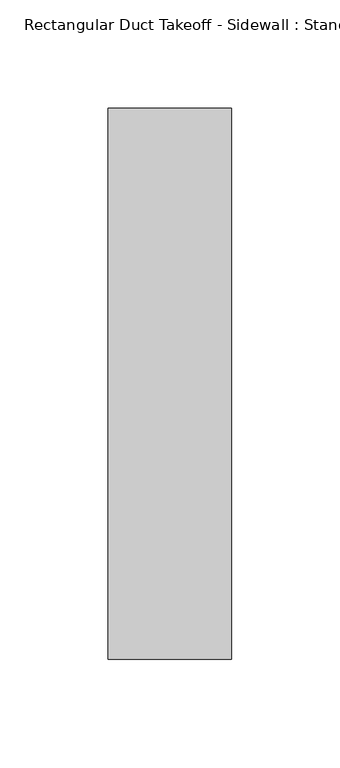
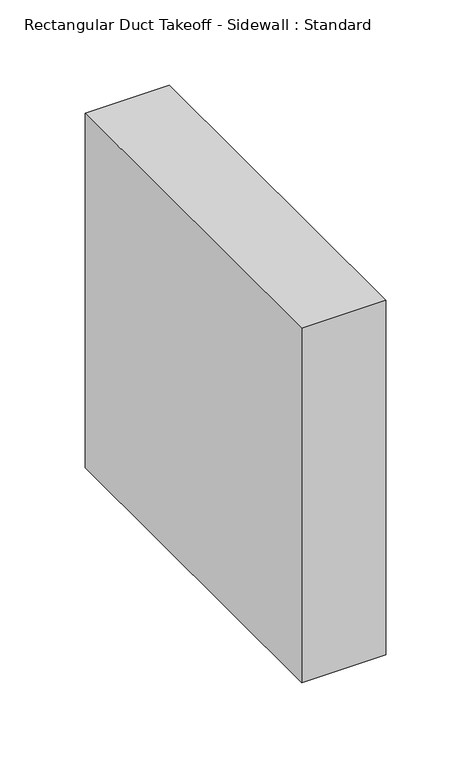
"""IFC4 building model written with IfcOpenShell, lengths in millimetres: duct fitting geometry, Rectangular Duct Takeoff - Sidewall : Standard."""

from ifc_helpers import new_model, si_unit, frame, origin, place, context, project, spatial, polyline, outline, extrude, source, transform, mapped, element, save


def rectangular_duct_takeoff_sidewall_standard_8ecd27dc(model_context):
    return source(origin(), model_context, "Body", "SweptSolid", [
        extrude(outline(polyline([(-6.096, -127.0), (-6.096, 127.0), (50.8, 127.0), (50.8, -127.0), (-6.096, -127.0)])), frame((0.0, 0.0, -127.0), z_axis=(0.0, 0.0, 1.0), x_axis=(1.0, 0.0, 0.0)), (0.0, 0.0, 1.0), 254.0),
        extrude(outline(polyline([(-6.096, -127.0), (-6.096, 127.0), (50.8, 127.0), (50.8, -127.0), (-6.096, -127.0)])), frame((0.0, 0.0, -127.0), z_axis=(0.0, 0.0, 1.0), x_axis=(1.0, 0.0, 0.0)), (0.0, 0.0, 1.0), 254.0),
        extrude(outline(polyline([(-6.096, -127.0), (-6.096, 127.0), (50.8, 127.0), (50.8, -127.0), (-6.096, -127.0)])), frame((0.0, 0.0, -127.0), z_axis=(0.0, 0.0, 1.0), x_axis=(1.0, 0.0, 0.0)), (0.0, 0.0, 1.0), 254.0),
    ])


if __name__ == "__main__":
    model = new_model("IFC4")
    model_context = context("Model", 3, world=origin())
    ifc_project = project(units=[si_unit("LENGTHUNIT", "METRE", prefix="MILLI")], contexts=[model_context])
    site = spatial("IfcSite", under=ifc_project)
    building = spatial("IfcBuilding", under=site)
    placement = place(None, origin())
    rectangular_duct_takeoff_sidewall_standard_shape = rectangular_duct_takeoff_sidewall_standard_8ecd27dc(model_context)
    element("IfcDuctFitting", 1, ObjectType="Rectangular Duct Takeoff - Sidewall : Standard", at=placement, inside=building, context=model_context, shape_type="MappedRepresentation", body=[
        mapped(rectangular_duct_takeoff_sidewall_standard_shape, transform((0.0, 0.0, 0.0), x_axis=(1.0, 0.0, 0.0), y_axis=(0.0, 1.0, 0.0), z_axis=(0.0, 0.0, 1.0))),
    ])
    save(model, "model.ifc")
